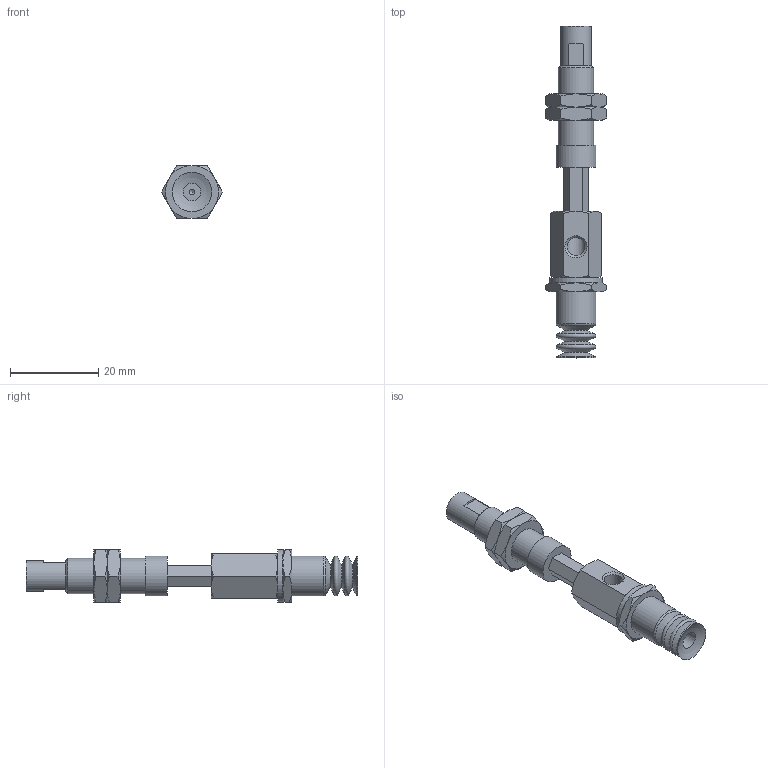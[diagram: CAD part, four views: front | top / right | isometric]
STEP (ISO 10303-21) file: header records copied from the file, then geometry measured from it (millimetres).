
FILE_DESCRIPTION(('STEP AP203'),'1');
FILE_NAME('.stp','2025-04-04T00:52:15',(' '),(' '),'Spatial InterOp 3D',' ',' ');
FILE_SCHEMA(('CONFIG_CONTROL_DESIGN'));
Length unit declared in the file: millimetre
Products named in the file (7): BNABPCYH-10-10-※; Adapter_napc-10-T; Connector_h-10-10; Nut napc_h-10-10; NAPCTH-10-10-FBODY; NAPCTH-10-10-MBODY; BPCG-10-※
Assembly tree (7 placements, depth 2):
  BNABPCYH-10-10-※
    Adapter_napc-10-T
    Connector_h-10-10
    Nut napc_h-10-10  x2
    NAPCTH-10-10-FBODY
    NAPCTH-10-10-MBODY
    BPCG-10-※
Bounding box: 13.86 x 75.2 x 12 mm (x, y, z)
Volume: 4480.3 mm3; surface area: 4953.7 mm2
Topology: 7 solids, 7 shells, 169 faces, 358 edges, 212 vertices
Faces by surface type: plane 71, cone 69, cylinder 19, torus 8, sphere 2
Full cylindrical faces by diameter (mm): 1.25 x1, 4 x1, 4.134 x3, 5 x6, 7 x1, 7.188 x2, 8 x1, 9 x3, 12 x1
Entity records: 4360 total; most frequent: CARTESIAN_POINT 1131, DIRECTION 596, ORIENTED_EDGE 522, EDGE_CURVE 261, AXIS2_PLACEMENT_3D 257, EDGE_LOOP 210, VERTEX_POINT 182, FACE_OUTER_BOUND 174
